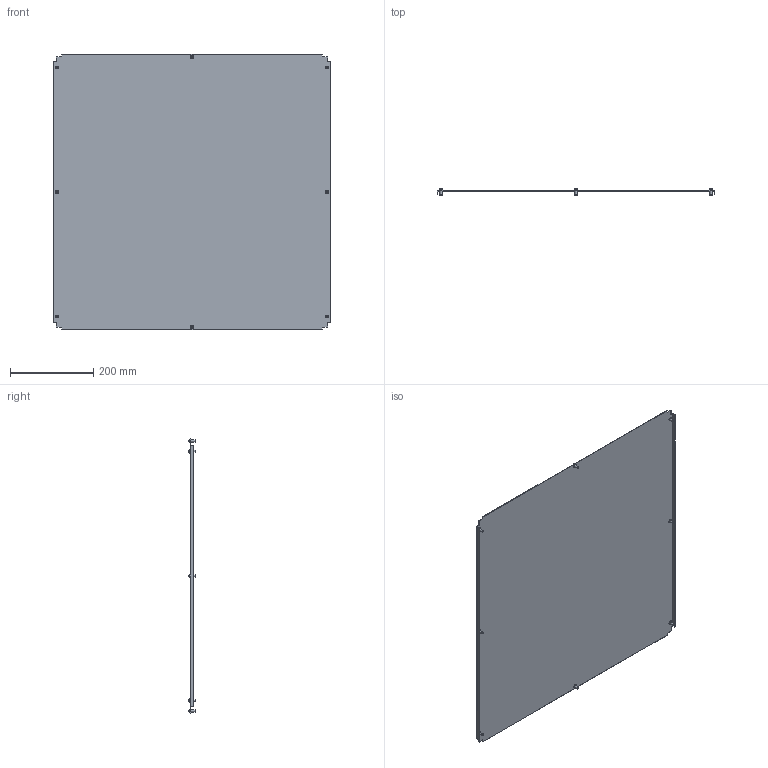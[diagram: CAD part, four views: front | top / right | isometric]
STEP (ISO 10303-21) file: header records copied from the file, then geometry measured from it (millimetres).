
FILE_DESCRIPTION (( 'STEP AP203' ), '1' );
FILE_NAME ('R5N1BP88.STEP', '2025-02-21T13:53:46', ( '' ), ( '' ), 'SwSTEP 2.0', 'SolidWorks 2022', '' );
FILE_SCHEMA (( 'CONFIG_CONTROL_DESIGN' ));
Length unit declared in the file: millimetre
Products named in the file (3): M5x12 DIN 7500 C Torx Zinc_stright; RB.1923.00.00.0_-13; R5N1BP88
Assembly tree (9 placements, depth 2):
  R5N1BP88
    RB.1923.00.00.0_-13
    M5x12 DIN 7500 C Torx Zinc_stright  x8
Bounding box: 668 x 15.56 x 662 mm (x, y, z)
Volume: 679163.3 mm3; surface area: 908727 mm2
Topology: 9 solids, 9 shells, 206 faces, 468 edges, 288 vertices
Faces by surface type: plane 126, cylinder 32, torus 16, cone 16, sphere 8, bspline 8
Full cylindrical faces by diameter (mm): 5 x8, 9.5 x8
Entity records: 3641 total; most frequent: CARTESIAN_POINT 724, DIRECTION 496, ORIENTED_EDGE 496, EDGE_CURVE 248, LINE 196, VECTOR 196, VERTEX_POINT 166, AXIS2_PLACEMENT_3D 150
